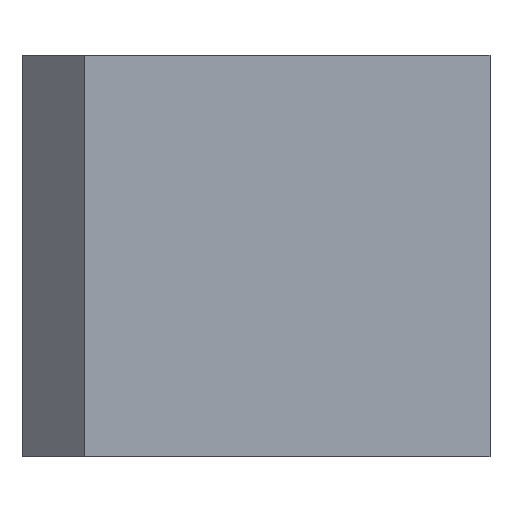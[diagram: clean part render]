
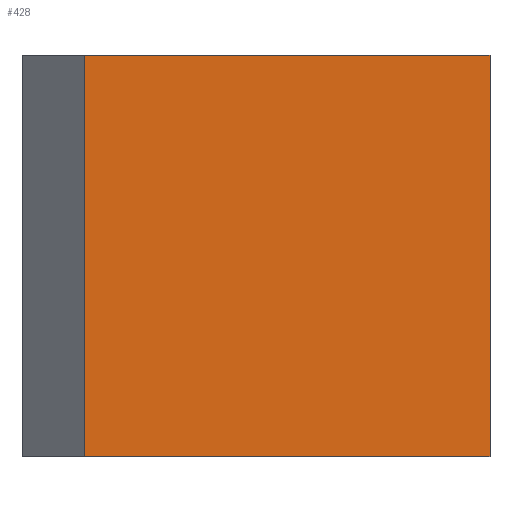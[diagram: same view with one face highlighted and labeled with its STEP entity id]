
A CAD part, top view. The second image highlights one B-rep face of the part: STEP entity #428.
In plain terms, the highlighted planar face has unit normal (0, 0, 1).
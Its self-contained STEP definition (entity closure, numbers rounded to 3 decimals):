
#189=DIRECTION('',(0.,-1.,0.));
#190=VECTOR('',#189,960.);
#191=CARTESIAN_POINT('',(-170.,960.,405.));
#192=LINE('',#191,#190);
#196=DIRECTION('',(-1.,0.,0.));
#197=VECTOR('',#196,970.);
#198=CARTESIAN_POINT('',(800.,960.,405.));
#199=LINE('',#198,#197);
#203=DIRECTION('',(0.,1.,0.));
#204=VECTOR('',#203,960.);
#205=CARTESIAN_POINT('',(800.,0.,405.));
#206=LINE('',#205,#204);
#210=DIRECTION('',(1.,0.,0.));
#211=VECTOR('',#210,970.);
#212=CARTESIAN_POINT('',(-170.,0.,405.));
#213=LINE('',#212,#211);
#308=CARTESIAN_POINT('',(-170.,960.,405.));
#309=CARTESIAN_POINT('',(-170.,0.,405.));
#310=VERTEX_POINT('',#308);
#311=VERTEX_POINT('',#309);
#312=CARTESIAN_POINT('',(800.,0.,405.));
#313=VERTEX_POINT('',#312);
#314=CARTESIAN_POINT('',(800.,960.,405.));
#315=VERTEX_POINT('',#314);
#417=CARTESIAN_POINT('',(0.,0.,405.));
#418=DIRECTION('',(0.,0.,1.));
#419=DIRECTION('',(1.,0.,0.));
#420=AXIS2_PLACEMENT_3D('',#417,#418,#419);
#421=PLANE('',#420);
#422=ORIENTED_EDGE('',*,*,#371,.F.);
#423=ORIENTED_EDGE('',*,*,#384,.F.);
#424=ORIENTED_EDGE('',*,*,#409,.F.);
#425=ORIENTED_EDGE('',*,*,#329,.F.);
#426=EDGE_LOOP('',(#422,#423,#424,#425));
#427=FACE_OUTER_BOUND('',#426,.F.);
#329=EDGE_CURVE('',#311,#313,#213,.T.);
#371=EDGE_CURVE('',#310,#311,#192,.T.);
#384=EDGE_CURVE('',#315,#310,#199,.T.);
#409=EDGE_CURVE('',#313,#315,#206,.T.);
#428=ADVANCED_FACE('',(#427),#421,.T.);
